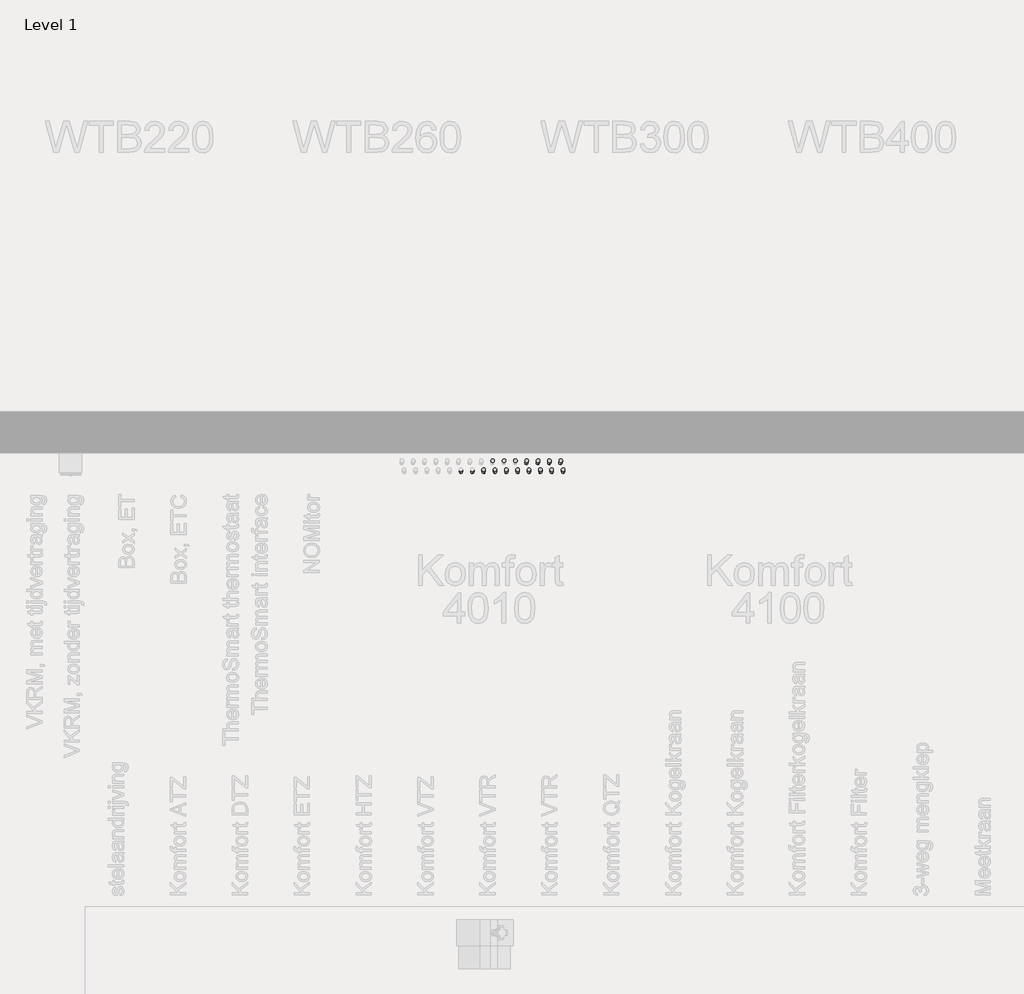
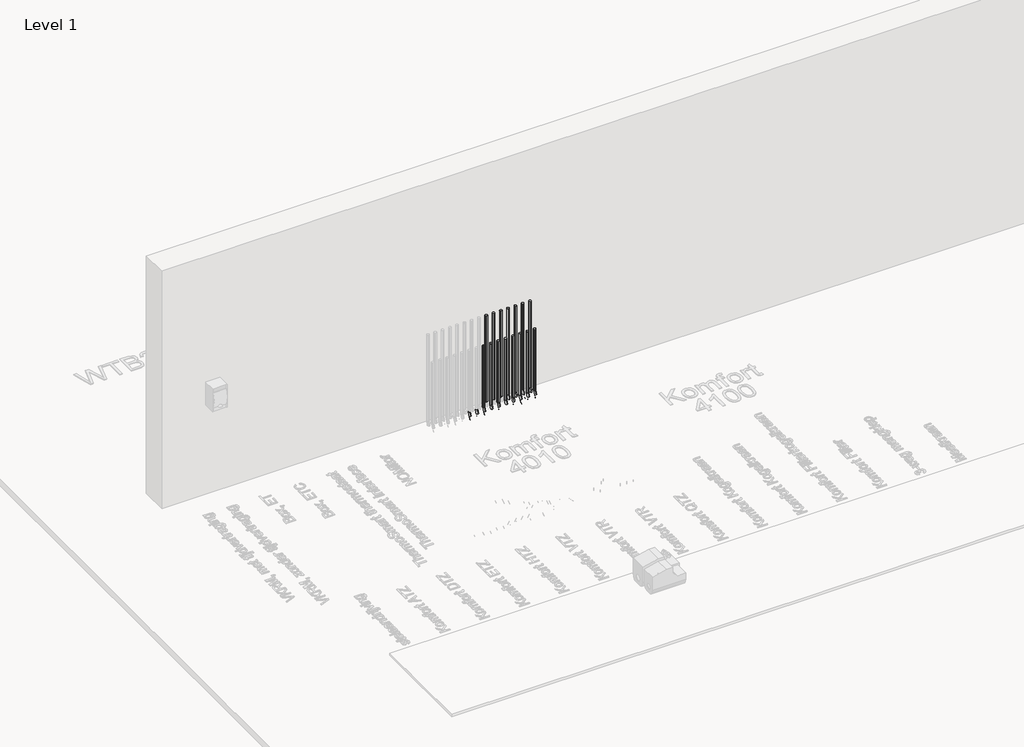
# One storey, part 5 of 34: 39 pipe segments, 18 pipe fittings.
"""IFC4 building model written with IfcOpenShell, lengths in millimetres."""

from ifc_helpers import new_model, si_unit, point, frame, frame_2d, origin, place, context, project, spatial, circle_curve, trimmed, segment, composite_curve, outline, extrude, transform, mapped, element, save
from components import comfort_pipe_plus_5c14e1aa, comfort_pipe_plus_d9ac523e

model = new_model("IFC4")

# Units and contexts
model_context = context("Model", 3, world=origin())
ifc_project = project(units=[si_unit("LENGTHUNIT", "METRE", prefix="MILLI")], contexts=[model_context])

# Site, building, storey
site = spatial("IfcSite", under=ifc_project)
building = spatial("IfcBuilding", under=site)
storey = spatial("IfcBuildingStorey", under=building, Name="Level 1", Elevation=0.0)

# Pipe fittings
placement = place(None, origin())
comfort_pipe_plus_shape = comfort_pipe_plus_5c14e1aa(model_context)
element("IfcPipeFitting", 1, ObjectType="400_5-_Uponor_curved_Elbow : Comfort pipe PLUS", at=placement, inside=storey, context=model_context, shape_type="MappedRepresentation", body=[
    mapped(comfort_pipe_plus_shape, transform((-14509.4849522, 7437.4403177, -40.0), x_axis=(-0.14136609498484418, -0.9899573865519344, 0.0), y_axis=(0.9899573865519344, -0.14136609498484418, 0.0), z_axis=(0.0, 0.0, 1.0))),
])
element("IfcPipeFitting", 2, ObjectType="400_5-_Uponor_curved_Elbow : Comfort pipe PLUS", at=placement, inside=storey, context=model_context, shape_type="MappedRepresentation", body=[
    mapped(comfort_pipe_plus_shape, transform((-14564.4849522, 7437.4403177, -40.0), x_axis=(-0.14136609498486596, -0.9899573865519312, 0.0), y_axis=(0.9899573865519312, -0.14136609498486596, 0.0), z_axis=(0.0, 0.0, 1.0))),
])
element("IfcPipeFitting", 3, ObjectType="400_5-_Uponor_curved_Elbow : Comfort pipe PLUS", at=placement, inside=storey, context=model_context, shape_type="MappedRepresentation", body=[
    mapped(comfort_pipe_plus_shape, transform((-14619.4849522, 7437.4403177, -40.0), x_axis=(-0.14136609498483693, -0.9899573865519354, 0.0), y_axis=(0.9899573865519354, -0.14136609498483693, 0.0), z_axis=(0.0, 0.0, 1.0))),
])
element("IfcPipeFitting", 4, ObjectType="400_5-_Uponor_curved_Elbow : Comfort pipe PLUS", at=placement, inside=storey, context=model_context, shape_type="MappedRepresentation", body=[
    mapped(comfort_pipe_plus_shape, transform((-14674.4849522, 7437.4403177, -40.0), x_axis=(-0.1413660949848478, -0.9899573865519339, 0.0), y_axis=(0.9899573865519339, -0.1413660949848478, 0.0), z_axis=(0.0, 0.0, 1.0))),
])
comfort_pipe_plus_2_shape = comfort_pipe_plus_d9ac523e(model_context)
element("IfcPipeFitting", 5, ObjectType="400_5-_Uponor_curved_Elbow : Comfort pipe PLUS", at=placement, inside=storey, context=model_context, shape_type="MappedRepresentation", body=[
    mapped(comfort_pipe_plus_2_shape, transform((-14976.9849522, 7509.9863889, -40.0), x_axis=(0.0, 0.0, -1.0), y_axis=(0.0, -1.0, 0.0), z_axis=(-1.0, 0.0, 0.0))),
])
element("IfcPipeFitting", 6, ObjectType="400_5-_Uponor_curved_Elbow : Comfort pipe PLUS", at=placement, inside=storey, context=model_context, shape_type="MappedRepresentation", body=[
    mapped(comfort_pipe_plus_2_shape, transform((-14921.9849522, 7509.9863889, -40.0), x_axis=(0.0, 0.0, -1.0), y_axis=(0.0, -1.0, 0.0), z_axis=(-1.0, 0.0, 0.0))),
])
element("IfcPipeFitting", 7, ObjectType="400_5-_Uponor_curved_Elbow : Comfort pipe PLUS", at=placement, inside=storey, context=model_context, shape_type="MappedRepresentation", body=[
    mapped(comfort_pipe_plus_2_shape, transform((-14866.9849522, 7509.9863889, -40.0), x_axis=(0.0, 0.0, -1.0), y_axis=(0.0, -1.0, 0.0), z_axis=(-1.0, 0.0, 0.0))),
])
element("IfcPipeFitting", 8, ObjectType="400_5-_Uponor_curved_Elbow : Comfort pipe PLUS", at=placement, inside=storey, context=model_context, shape_type="MappedRepresentation", body=[
    mapped(comfort_pipe_plus_2_shape, transform((-14811.9849522, 7509.9863889, -40.0), x_axis=(0.0, 0.0, -1.0), y_axis=(0.0, -1.0, 0.0), z_axis=(-1.0, 0.0, 0.0))),
])
element("IfcPipeFitting", 9, ObjectType="400_5-_Uponor_curved_Elbow : Comfort pipe PLUS", at=placement, inside=storey, context=model_context, shape_type="MappedRepresentation", body=[
    mapped(comfort_pipe_plus_2_shape, transform((-14756.9849522, 7509.9863889, -40.0), x_axis=(0.0, 0.0, -1.0), y_axis=(0.0, -1.0, 0.0), z_axis=(-1.0, 0.0, 0.0))),
])
element("IfcPipeFitting", 10, ObjectType="400_5-_Uponor_curved_Elbow : Comfort pipe PLUS", at=placement, inside=storey, context=model_context, shape_type="MappedRepresentation", body=[
    mapped(comfort_pipe_plus_2_shape, transform((-14701.9849522, 7509.9863889, -40.0), x_axis=(0.0, 0.0, -1.0), y_axis=(0.0, -1.0, 0.0), z_axis=(-1.0, 0.0, 0.0))),
])
element("IfcPipeFitting", 11, ObjectType="400_5-_Uponor_curved_Elbow : Comfort pipe PLUS", at=placement, inside=storey, context=model_context, shape_type="MappedRepresentation", body=[
    mapped(comfort_pipe_plus_2_shape, transform((-14646.9849522, 7509.9863889, -40.0), x_axis=(0.0, 0.0, -1.0), y_axis=(0.0, -1.0, 0.0), z_axis=(-1.0, 0.0, 0.0))),
])
element("IfcPipeFitting", 12, ObjectType="400_5-_Uponor_curved_Elbow : Comfort pipe PLUS", at=placement, inside=storey, context=model_context, shape_type="MappedRepresentation", body=[
    mapped(comfort_pipe_plus_2_shape, transform((-14591.9849522, 7509.9863889, -40.0), x_axis=(0.0, 0.0, -1.0), y_axis=(0.0, -1.0, 0.0), z_axis=(-1.0, 0.0, 0.0))),
])
element("IfcPipeFitting", 13, ObjectType="400_5-_Uponor_curved_Elbow : Comfort pipe PLUS", at=placement, inside=storey, context=model_context, shape_type="MappedRepresentation", body=[
    mapped(comfort_pipe_plus_2_shape, transform((-14536.9849522, 7509.9863889, -40.0), x_axis=(0.0, 0.0, -1.0), y_axis=(0.0, -1.0, 0.0), z_axis=(-1.0, 0.0, 0.0))),
])
element("IfcPipeFitting", 14, ObjectType="400_5-_Uponor_curved_Elbow : Comfort pipe PLUS", at=placement, inside=storey, context=model_context, shape_type="MappedRepresentation", body=[
    mapped(comfort_pipe_plus_2_shape, transform((-14481.9849522, 7509.9863889, -40.0), x_axis=(0.0, 0.0, -1.0), y_axis=(0.0, -1.0, 0.0), z_axis=(-1.0, 0.0, 0.0))),
])
element("IfcPipeFitting", 15, ObjectType="400_5-_Uponor_curved_Elbow : Comfort pipe PLUS", at=placement, inside=storey, context=model_context, shape_type="MappedRepresentation", body=[
    mapped(comfort_pipe_plus_2_shape, transform((-14492.9849522, 7552.9863889, -40.0), x_axis=(0.0, 0.0, -1.0), y_axis=(-0.14136609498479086, -0.989957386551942, 0.0), z_axis=(-0.989957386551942, 0.14136609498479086, 0.0))),
])
element("IfcPipeFitting", 16, ObjectType="400_5-_Uponor_curved_Elbow : Comfort pipe PLUS", at=placement, inside=storey, context=model_context, shape_type="MappedRepresentation", body=[
    mapped(comfort_pipe_plus_2_shape, transform((-14547.9849522, 7552.9863889, -40.0), x_axis=(0.0, 0.0, -1.0), y_axis=(-0.14136609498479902, -0.9899573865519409, 0.0), z_axis=(-0.9899573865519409, 0.14136609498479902, 0.0))),
])
element("IfcPipeFitting", 17, ObjectType="400_5-_Uponor_curved_Elbow : Comfort pipe PLUS", at=placement, inside=storey, context=model_context, shape_type="MappedRepresentation", body=[
    mapped(comfort_pipe_plus_2_shape, transform((-14602.9849522, 7552.9863889, -40.0), x_axis=(0.0, 0.0, -1.0), y_axis=(-0.14136609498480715, -0.9899573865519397, 0.0), z_axis=(-0.9899573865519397, 0.14136609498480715, 0.0))),
])
element("IfcPipeFitting", 18, ObjectType="400_5-_Uponor_curved_Elbow : Comfort pipe PLUS", at=placement, inside=storey, context=model_context, shape_type="MappedRepresentation", body=[
    mapped(comfort_pipe_plus_2_shape, transform((-14657.9849522, 7552.9863889, -40.0), x_axis=(0.0, 0.0, -1.0), y_axis=(-0.14136609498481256, -0.9899573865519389, 0.0), z_axis=(-0.9899573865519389, 0.14136609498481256, 0.0))),
])

# Pipe segments
element("IfcPipeSegment", 19, ObjectType="Uponor Comfort Pipe PLUS / VVL", at=placement, inside=storey, context=model_context, shape_type="SweptSolid", body=[
    extrude(outline(composite_curve([segment(trimmed(circle_curve(frame_2d((-40.0, -14866.9849522)), 8.5), [point((-40.0, -14875.4849522))], [point((-48.5, -14866.9849522))], False, "CARTESIAN"), True, "CONTINUOUS"), segment(trimmed(circle_curve(frame_2d((-40.0, -14866.9849522)), 8.5), [point((-48.5, -14866.9849522))], [point((-40.0, -14858.4849522))], False, "CARTESIAN"), True, "CONTINUOUS"), segment(trimmed(circle_curve(frame_2d((-40.0, -14866.9849522)), 8.5), [point((-40.0, -14858.4849522))], [point((-31.5, -14866.9849522))], False, "CARTESIAN"), True, "CONTINUOUS"), segment(trimmed(circle_curve(frame_2d((-40.0, -14866.9849522)), 8.5), [point((-31.5, -14866.9849522))], [point((-40.0, -14875.4849522))], False, "CARTESIAN"), True, "CONTINUOUS")], self_intersect=False)), frame((0.0, 7193.8942465, 0.0), z_axis=(0.0, 1.0, 0.0), x_axis=(0.0, 0.0, 1.0)), (0.0, 0.0, 1.0), 246.0921424),
])
element("IfcPipeSegment", 20, ObjectType="Uponor Comfort Pipe PLUS / VVL", at=placement, inside=storey, context=model_context, shape_type="SweptSolid", body=[
    extrude(outline(composite_curve([segment(trimmed(circle_curve(frame_2d((-14866.9849522, 7509.9863889)), 8.5), [point((-14875.4849522, 7509.9863889))], [point((-14866.9849522, 7518.4863889))], False, "CARTESIAN"), True, "CONTINUOUS"), segment(trimmed(circle_curve(frame_2d((-14866.9849522, 7509.9863889)), 8.5), [point((-14866.9849522, 7518.4863889))], [point((-14858.4849522, 7509.9863889))], False, "CARTESIAN"), True, "CONTINUOUS"), segment(trimmed(circle_curve(frame_2d((-14866.9849522, 7509.9863889)), 8.5), [point((-14858.4849522, 7509.9863889))], [point((-14866.9849522, 7501.4863889))], False, "CARTESIAN"), True, "CONTINUOUS"), segment(trimmed(circle_curve(frame_2d((-14866.9849522, 7509.9863889)), 8.5), [point((-14866.9849522, 7501.4863889))], [point((-14875.4849522, 7509.9863889))], False, "CARTESIAN"), True, "CONTINUOUS")], self_intersect=False)), frame((0.0, 0.0, 30.0), z_axis=(0.0, 0.0, 1.0), x_axis=(1.0, 0.0, 0.0)), (0.0, 0.0, 1.0), 487.6490683),
])
element("IfcPipeSegment", 21, ObjectType="Uponor Comfort Pipe PLUS / VVL", at=placement, inside=storey, context=model_context, shape_type="SweptSolid", body=[
    extrude(outline(composite_curve([segment(trimmed(circle_curve(frame_2d((0.0, -8.5)), 8.5), [point((-8.5, -8.5))], [point((0.0, 0.0))], False, "CARTESIAN"), True, "CONTINUOUS"), segment(trimmed(circle_curve(frame_2d((0.0, -8.5)), 8.5), [point((0.0, 0.0))], [point((8.5, -8.5))], False, "CARTESIAN"), True, "CONTINUOUS"), segment(trimmed(circle_curve(frame_2d((0.0, -8.5)), 8.5), [point((8.5, -8.5))], [point((0.0, -17.0))], False, "CARTESIAN"), True, "CONTINUOUS"), segment(trimmed(circle_curve(frame_2d((0.0, -8.5)), 8.5), [point((0.0, -17.0))], [point((-8.5, -8.5))], False, "CARTESIAN"), True, "CONTINUOUS")], self_intersect=False)), frame((-14838.7819693, 7442.3631611, -48.5), z_axis=(0.14136609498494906, 0.9899573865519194, 0.0), x_axis=(0.9899573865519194, -0.14136609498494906, 0.0)), (0.0, 0.0, 1.0), 41.7454441),
])
element("IfcPipeSegment", 22, ObjectType="Uponor Comfort Pipe PLUS / VVL", at=placement, inside=storey, context=model_context, shape_type="SweptSolid", body=[
    extrude(outline(composite_curve([segment(trimmed(circle_curve(frame_2d((-14822.9849522, 7552.9863889)), 8.5), [point((-14831.4849522, 7552.9863889))], [point((-14822.9849522, 7561.4863889))], False, "CARTESIAN"), True, "CONTINUOUS"), segment(trimmed(circle_curve(frame_2d((-14822.9849522, 7552.9863889)), 8.5), [point((-14822.9849522, 7561.4863889))], [point((-14814.4849522, 7552.9863889))], False, "CARTESIAN"), True, "CONTINUOUS"), segment(trimmed(circle_curve(frame_2d((-14822.9849522, 7552.9863889)), 8.5), [point((-14814.4849522, 7552.9863889))], [point((-14822.9849522, 7544.4863889))], False, "CARTESIAN"), True, "CONTINUOUS"), segment(trimmed(circle_curve(frame_2d((-14822.9849522, 7552.9863889)), 8.5), [point((-14822.9849522, 7544.4863889))], [point((-14831.4849522, 7552.9863889))], False, "CARTESIAN"), True, "CONTINUOUS")], self_intersect=False)), frame((0.0, 0.0, 30.0), z_axis=(0.0, 0.0, 1.0), x_axis=(1.0, 0.0, 0.0)), (0.0, 0.0, 1.0), 687.5776398),
])
element("IfcPipeSegment", 23, ObjectType="Uponor Comfort Pipe PLUS / VVL", at=placement, inside=storey, context=model_context, shape_type="SweptSolid", body=[
    extrude(outline(composite_curve([segment(trimmed(circle_curve(frame_2d((-40.0, -14811.9849522)), 8.5), [point((-40.0, -14820.4849522))], [point((-48.5, -14811.9849522))], False, "CARTESIAN"), True, "CONTINUOUS"), segment(trimmed(circle_curve(frame_2d((-40.0, -14811.9849522)), 8.5), [point((-48.5, -14811.9849522))], [point((-40.0, -14803.4849522))], False, "CARTESIAN"), True, "CONTINUOUS"), segment(trimmed(circle_curve(frame_2d((-40.0, -14811.9849522)), 8.5), [point((-40.0, -14803.4849522))], [point((-31.5, -14811.9849522))], False, "CARTESIAN"), True, "CONTINUOUS"), segment(trimmed(circle_curve(frame_2d((-40.0, -14811.9849522)), 8.5), [point((-31.5, -14811.9849522))], [point((-40.0, -14820.4849522))], False, "CARTESIAN"), True, "CONTINUOUS")], self_intersect=False)), frame((0.0, 7193.8942465, 0.0), z_axis=(0.0, 1.0, 0.0), x_axis=(0.0, 0.0, 1.0)), (0.0, 0.0, 1.0), 246.0921424),
])
element("IfcPipeSegment", 24, ObjectType="Uponor Comfort Pipe PLUS / VVL", at=placement, inside=storey, context=model_context, shape_type="SweptSolid", body=[
    extrude(outline(composite_curve([segment(trimmed(circle_curve(frame_2d((-14811.9849522, 7509.9863889)), 8.5), [point((-14820.4849522, 7509.9863889))], [point((-14811.9849522, 7518.4863889))], False, "CARTESIAN"), True, "CONTINUOUS"), segment(trimmed(circle_curve(frame_2d((-14811.9849522, 7509.9863889)), 8.5), [point((-14811.9849522, 7518.4863889))], [point((-14803.4849522, 7509.9863889))], False, "CARTESIAN"), True, "CONTINUOUS"), segment(trimmed(circle_curve(frame_2d((-14811.9849522, 7509.9863889)), 8.5), [point((-14803.4849522, 7509.9863889))], [point((-14811.9849522, 7501.4863889))], False, "CARTESIAN"), True, "CONTINUOUS"), segment(trimmed(circle_curve(frame_2d((-14811.9849522, 7509.9863889)), 8.5), [point((-14811.9849522, 7501.4863889))], [point((-14820.4849522, 7509.9863889))], False, "CARTESIAN"), True, "CONTINUOUS")], self_intersect=False)), frame((0.0, 0.0, 30.0), z_axis=(0.0, 0.0, 1.0), x_axis=(1.0, 0.0, 0.0)), (0.0, 0.0, 1.0), 487.6490683),
])
element("IfcPipeSegment", 25, ObjectType="Uponor Comfort Pipe PLUS / VVL", at=placement, inside=storey, context=model_context, shape_type="SweptSolid", body=[
    extrude(outline(composite_curve([segment(trimmed(circle_curve(frame_2d((0.0, -8.5)), 8.5), [point((-8.5, -8.5))], [point((0.0, 0.0))], False, "CARTESIAN"), True, "CONTINUOUS"), segment(trimmed(circle_curve(frame_2d((0.0, -8.5)), 8.5), [point((0.0, 0.0))], [point((8.5, -8.5))], False, "CARTESIAN"), True, "CONTINUOUS"), segment(trimmed(circle_curve(frame_2d((0.0, -8.5)), 8.5), [point((8.5, -8.5))], [point((0.0, -17.0))], False, "CARTESIAN"), True, "CONTINUOUS"), segment(trimmed(circle_curve(frame_2d((0.0, -8.5)), 8.5), [point((0.0, -17.0))], [point((-8.5, -8.5))], False, "CARTESIAN"), True, "CONTINUOUS")], self_intersect=False)), frame((-14783.7819693, 7442.3631611, -48.5), z_axis=(0.14136609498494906, 0.9899573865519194, 0.0), x_axis=(0.9899573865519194, -0.14136609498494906, 0.0)), (0.0, 0.0, 1.0), 41.7454441),
])
element("IfcPipeSegment", 26, ObjectType="Uponor Comfort Pipe PLUS / VVL", at=placement, inside=storey, context=model_context, shape_type="SweptSolid", body=[
    extrude(outline(composite_curve([segment(trimmed(circle_curve(frame_2d((-14767.9849522, 7552.9863889)), 8.5), [point((-14776.4849522, 7552.9863889))], [point((-14767.9849522, 7561.4863889))], False, "CARTESIAN"), True, "CONTINUOUS"), segment(trimmed(circle_curve(frame_2d((-14767.9849522, 7552.9863889)), 8.5), [point((-14767.9849522, 7561.4863889))], [point((-14759.4849522, 7552.9863889))], False, "CARTESIAN"), True, "CONTINUOUS"), segment(trimmed(circle_curve(frame_2d((-14767.9849522, 7552.9863889)), 8.5), [point((-14759.4849522, 7552.9863889))], [point((-14767.9849522, 7544.4863889))], False, "CARTESIAN"), True, "CONTINUOUS"), segment(trimmed(circle_curve(frame_2d((-14767.9849522, 7552.9863889)), 8.5), [point((-14767.9849522, 7544.4863889))], [point((-14776.4849522, 7552.9863889))], False, "CARTESIAN"), True, "CONTINUOUS")], self_intersect=False)), frame((0.0, 0.0, 30.0), z_axis=(0.0, 0.0, 1.0), x_axis=(1.0, 0.0, 0.0)), (0.0, 0.0, 1.0), 687.5776398),
])
element("IfcPipeSegment", 27, ObjectType="Uponor Comfort Pipe PLUS / VVL", at=placement, inside=storey, context=model_context, shape_type="SweptSolid", body=[
    extrude(outline(composite_curve([segment(trimmed(circle_curve(frame_2d((-40.0, -14756.9849522)), 8.5), [point((-40.0, -14765.4849522))], [point((-48.5, -14756.9849522))], False, "CARTESIAN"), True, "CONTINUOUS"), segment(trimmed(circle_curve(frame_2d((-40.0, -14756.9849522)), 8.5), [point((-48.5, -14756.9849522))], [point((-40.0, -14748.4849522))], False, "CARTESIAN"), True, "CONTINUOUS"), segment(trimmed(circle_curve(frame_2d((-40.0, -14756.9849522)), 8.5), [point((-40.0, -14748.4849522))], [point((-31.5, -14756.9849522))], False, "CARTESIAN"), True, "CONTINUOUS"), segment(trimmed(circle_curve(frame_2d((-40.0, -14756.9849522)), 8.5), [point((-31.5, -14756.9849522))], [point((-40.0, -14765.4849522))], False, "CARTESIAN"), True, "CONTINUOUS")], self_intersect=False)), frame((0.0, 7193.8942465, 0.0), z_axis=(0.0, 1.0, 0.0), x_axis=(0.0, 0.0, 1.0)), (0.0, 0.0, 1.0), 246.0921424),
])
element("IfcPipeSegment", 28, ObjectType="Uponor Comfort Pipe PLUS / VVL", at=placement, inside=storey, context=model_context, shape_type="SweptSolid", body=[
    extrude(outline(composite_curve([segment(trimmed(circle_curve(frame_2d((-14756.9849522, 7509.9863889)), 8.5), [point((-14765.4849522, 7509.9863889))], [point((-14756.9849522, 7518.4863889))], False, "CARTESIAN"), True, "CONTINUOUS"), segment(trimmed(circle_curve(frame_2d((-14756.9849522, 7509.9863889)), 8.5), [point((-14756.9849522, 7518.4863889))], [point((-14748.4849522, 7509.9863889))], False, "CARTESIAN"), True, "CONTINUOUS"), segment(trimmed(circle_curve(frame_2d((-14756.9849522, 7509.9863889)), 8.5), [point((-14748.4849522, 7509.9863889))], [point((-14756.9849522, 7501.4863889))], False, "CARTESIAN"), True, "CONTINUOUS"), segment(trimmed(circle_curve(frame_2d((-14756.9849522, 7509.9863889)), 8.5), [point((-14756.9849522, 7501.4863889))], [point((-14765.4849522, 7509.9863889))], False, "CARTESIAN"), True, "CONTINUOUS")], self_intersect=False)), frame((0.0, 0.0, 30.0), z_axis=(0.0, 0.0, 1.0), x_axis=(1.0, 0.0, 0.0)), (0.0, 0.0, 1.0), 487.6490683),
])
element("IfcPipeSegment", 29, ObjectType="Uponor Comfort Pipe PLUS / VVL", at=placement, inside=storey, context=model_context, shape_type="SweptSolid", body=[
    extrude(outline(composite_curve([segment(trimmed(circle_curve(frame_2d((0.0, -8.5)), 8.5), [point((-8.5, -8.5))], [point((0.0, 0.0))], False, "CARTESIAN"), True, "CONTINUOUS"), segment(trimmed(circle_curve(frame_2d((0.0, -8.5)), 8.5), [point((0.0, 0.0))], [point((8.5, -8.5))], False, "CARTESIAN"), True, "CONTINUOUS"), segment(trimmed(circle_curve(frame_2d((0.0, -8.5)), 8.5), [point((8.5, -8.5))], [point((0.0, -17.0))], False, "CARTESIAN"), True, "CONTINUOUS"), segment(trimmed(circle_curve(frame_2d((0.0, -8.5)), 8.5), [point((0.0, -17.0))], [point((-8.5, -8.5))], False, "CARTESIAN"), True, "CONTINUOUS")], self_intersect=False)), frame((-14728.7819693, 7442.3631611, -48.5), z_axis=(0.14136609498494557, 0.98995738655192, 0.0), x_axis=(0.98995738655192, -0.14136609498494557, 0.0)), (0.0, 0.0, 1.0), 41.7454441),
])
element("IfcPipeSegment", 30, ObjectType="Uponor Comfort Pipe PLUS / VVL", at=placement, inside=storey, context=model_context, shape_type="SweptSolid", body=[
    extrude(outline(composite_curve([segment(trimmed(circle_curve(frame_2d((-14712.9849522, 7552.9863889)), 8.5), [point((-14721.4849522, 7552.9863889))], [point((-14712.9849522, 7561.4863889))], False, "CARTESIAN"), True, "CONTINUOUS"), segment(trimmed(circle_curve(frame_2d((-14712.9849522, 7552.9863889)), 8.5), [point((-14712.9849522, 7561.4863889))], [point((-14704.4849522, 7552.9863889))], False, "CARTESIAN"), True, "CONTINUOUS"), segment(trimmed(circle_curve(frame_2d((-14712.9849522, 7552.9863889)), 8.5), [point((-14704.4849522, 7552.9863889))], [point((-14712.9849522, 7544.4863889))], False, "CARTESIAN"), True, "CONTINUOUS"), segment(trimmed(circle_curve(frame_2d((-14712.9849522, 7552.9863889)), 8.5), [point((-14712.9849522, 7544.4863889))], [point((-14721.4849522, 7552.9863889))], False, "CARTESIAN"), True, "CONTINUOUS")], self_intersect=False)), frame((0.0, 0.0, 30.0), z_axis=(0.0, 0.0, 1.0), x_axis=(1.0, 0.0, 0.0)), (0.0, 0.0, 1.0), 687.5776398),
])
element("IfcPipeSegment", 31, ObjectType="Uponor Comfort Pipe PLUS / VVL", at=placement, inside=storey, context=model_context, shape_type="SweptSolid", body=[
    extrude(outline(composite_curve([segment(trimmed(circle_curve(frame_2d((-40.0, -14701.9849522)), 8.5), [point((-40.0, -14710.4849522))], [point((-48.5, -14701.9849522))], False, "CARTESIAN"), True, "CONTINUOUS"), segment(trimmed(circle_curve(frame_2d((-40.0, -14701.9849522)), 8.5), [point((-48.5, -14701.9849522))], [point((-40.0, -14693.4849522))], False, "CARTESIAN"), True, "CONTINUOUS"), segment(trimmed(circle_curve(frame_2d((-40.0, -14701.9849522)), 8.5), [point((-40.0, -14693.4849522))], [point((-31.5, -14701.9849522))], False, "CARTESIAN"), True, "CONTINUOUS"), segment(trimmed(circle_curve(frame_2d((-40.0, -14701.9849522)), 8.5), [point((-31.5, -14701.9849522))], [point((-40.0, -14710.4849522))], False, "CARTESIAN"), True, "CONTINUOUS")], self_intersect=False)), frame((0.0, 7193.8942465, 0.0), z_axis=(0.0, 1.0, 0.0), x_axis=(0.0, 0.0, 1.0)), (0.0, 0.0, 1.0), 246.0921424),
])
element("IfcPipeSegment", 32, ObjectType="Uponor Comfort Pipe PLUS / VVL", at=placement, inside=storey, context=model_context, shape_type="SweptSolid", body=[
    extrude(outline(composite_curve([segment(trimmed(circle_curve(frame_2d((-14701.9849522, 7509.9863889)), 8.5), [point((-14710.4849522, 7509.9863889))], [point((-14701.9849522, 7518.4863889))], False, "CARTESIAN"), True, "CONTINUOUS"), segment(trimmed(circle_curve(frame_2d((-14701.9849522, 7509.9863889)), 8.5), [point((-14701.9849522, 7518.4863889))], [point((-14693.4849522, 7509.9863889))], False, "CARTESIAN"), True, "CONTINUOUS"), segment(trimmed(circle_curve(frame_2d((-14701.9849522, 7509.9863889)), 8.5), [point((-14693.4849522, 7509.9863889))], [point((-14701.9849522, 7501.4863889))], False, "CARTESIAN"), True, "CONTINUOUS"), segment(trimmed(circle_curve(frame_2d((-14701.9849522, 7509.9863889)), 8.5), [point((-14701.9849522, 7501.4863889))], [point((-14710.4849522, 7509.9863889))], False, "CARTESIAN"), True, "CONTINUOUS")], self_intersect=False)), frame((0.0, 0.0, 30.0), z_axis=(0.0, 0.0, 1.0), x_axis=(1.0, 0.0, 0.0)), (0.0, 0.0, 1.0), 487.6490683),
])
element("IfcPipeSegment", 33, ObjectType="Uponor Comfort Pipe PLUS / VVL", at=placement, inside=storey, context=model_context, shape_type="SweptSolid", body=[
    extrude(outline(composite_curve([segment(trimmed(circle_curve(frame_2d((0.0, -8.5)), 8.5), [point((-8.5, -8.5))], [point((0.0, 0.0))], False, "CARTESIAN"), True, "CONTINUOUS"), segment(trimmed(circle_curve(frame_2d((0.0, -8.5)), 8.5), [point((0.0, 0.0))], [point((8.5, -8.5))], False, "CARTESIAN"), True, "CONTINUOUS"), segment(trimmed(circle_curve(frame_2d((0.0, -8.5)), 8.5), [point((8.5, -8.5))], [point((0.0, -17.0))], False, "CARTESIAN"), True, "CONTINUOUS"), segment(trimmed(circle_curve(frame_2d((0.0, -8.5)), 8.5), [point((0.0, -17.0))], [point((-8.5, -8.5))], False, "CARTESIAN"), True, "CONTINUOUS")], self_intersect=False)), frame((-14673.7819693, 7442.3631611, -48.5), z_axis=(0.1413660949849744, 0.9899573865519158, 0.0), x_axis=(0.9899573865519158, -0.1413660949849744, 0.0)), (0.0, 0.0, 1.0), 41.7454441),
])
element("IfcPipeSegment", 34, ObjectType="Uponor Comfort Pipe PLUS / VVL", at=placement, inside=storey, context=model_context, shape_type="SweptSolid", body=[
    extrude(outline(composite_curve([segment(trimmed(circle_curve(frame_2d((-14657.9849522, 7552.9863889)), 8.5), [point((-14666.4849522, 7552.9863889))], [point((-14657.9849522, 7561.4863889))], False, "CARTESIAN"), True, "CONTINUOUS"), segment(trimmed(circle_curve(frame_2d((-14657.9849522, 7552.9863889)), 8.5), [point((-14657.9849522, 7561.4863889))], [point((-14649.4849522, 7552.9863889))], False, "CARTESIAN"), True, "CONTINUOUS"), segment(trimmed(circle_curve(frame_2d((-14657.9849522, 7552.9863889)), 8.5), [point((-14649.4849522, 7552.9863889))], [point((-14657.9849522, 7544.4863889))], False, "CARTESIAN"), True, "CONTINUOUS"), segment(trimmed(circle_curve(frame_2d((-14657.9849522, 7552.9863889)), 8.5), [point((-14657.9849522, 7544.4863889))], [point((-14666.4849522, 7552.9863889))], False, "CARTESIAN"), True, "CONTINUOUS")], self_intersect=False)), frame((0.0, 0.0, 30.0), z_axis=(0.0, 0.0, 1.0), x_axis=(1.0, 0.0, 0.0)), (0.0, 0.0, 1.0), 687.5776398),
])
element("IfcPipeSegment", 35, ObjectType="Uponor Comfort Pipe PLUS / VVL", at=placement, inside=storey, context=model_context, shape_type="SweptSolid", body=[
    extrude(outline(composite_curve([segment(trimmed(circle_curve(frame_2d((-40.0, -14646.9849522)), 8.5), [point((-40.0, -14655.4849522))], [point((-48.5, -14646.9849522))], False, "CARTESIAN"), True, "CONTINUOUS"), segment(trimmed(circle_curve(frame_2d((-40.0, -14646.9849522)), 8.5), [point((-48.5, -14646.9849522))], [point((-40.0, -14638.4849522))], False, "CARTESIAN"), True, "CONTINUOUS"), segment(trimmed(circle_curve(frame_2d((-40.0, -14646.9849522)), 8.5), [point((-40.0, -14638.4849522))], [point((-31.5, -14646.9849522))], False, "CARTESIAN"), True, "CONTINUOUS"), segment(trimmed(circle_curve(frame_2d((-40.0, -14646.9849522)), 8.5), [point((-31.5, -14646.9849522))], [point((-40.0, -14655.4849522))], False, "CARTESIAN"), True, "CONTINUOUS")], self_intersect=False)), frame((0.0, 7193.8942465, 0.0), z_axis=(0.0, 1.0, 0.0), x_axis=(0.0, 0.0, 1.0)), (0.0, 0.0, 1.0), 246.0921424),
])
element("IfcPipeSegment", 36, ObjectType="Uponor Comfort Pipe PLUS / VVL", at=placement, inside=storey, context=model_context, shape_type="SweptSolid", body=[
    extrude(outline(composite_curve([segment(trimmed(circle_curve(frame_2d((-14646.9849522, 7509.9863889)), 8.5), [point((-14655.4849522, 7509.9863889))], [point((-14646.9849522, 7518.4863889))], False, "CARTESIAN"), True, "CONTINUOUS"), segment(trimmed(circle_curve(frame_2d((-14646.9849522, 7509.9863889)), 8.5), [point((-14646.9849522, 7518.4863889))], [point((-14638.4849522, 7509.9863889))], False, "CARTESIAN"), True, "CONTINUOUS"), segment(trimmed(circle_curve(frame_2d((-14646.9849522, 7509.9863889)), 8.5), [point((-14638.4849522, 7509.9863889))], [point((-14646.9849522, 7501.4863889))], False, "CARTESIAN"), True, "CONTINUOUS"), segment(trimmed(circle_curve(frame_2d((-14646.9849522, 7509.9863889)), 8.5), [point((-14646.9849522, 7501.4863889))], [point((-14655.4849522, 7509.9863889))], False, "CARTESIAN"), True, "CONTINUOUS")], self_intersect=False)), frame((0.0, 0.0, 30.0), z_axis=(0.0, 0.0, 1.0), x_axis=(1.0, 0.0, 0.0)), (0.0, 0.0, 1.0), 487.6490683),
])
element("IfcPipeSegment", 37, ObjectType="Uponor Comfort Pipe PLUS / VVL", at=placement, inside=storey, context=model_context, shape_type="SweptSolid", body=[
    extrude(outline(composite_curve([segment(trimmed(circle_curve(frame_2d((0.0, -8.5)), 8.5), [point((-8.5, -8.5))], [point((0.0, 0.0))], False, "CARTESIAN"), True, "CONTINUOUS"), segment(trimmed(circle_curve(frame_2d((0.0, -8.5)), 8.5), [point((0.0, 0.0))], [point((8.5, -8.5))], False, "CARTESIAN"), True, "CONTINUOUS"), segment(trimmed(circle_curve(frame_2d((0.0, -8.5)), 8.5), [point((8.5, -8.5))], [point((0.0, -17.0))], False, "CARTESIAN"), True, "CONTINUOUS"), segment(trimmed(circle_curve(frame_2d((0.0, -8.5)), 8.5), [point((0.0, -17.0))], [point((-8.5, -8.5))], False, "CARTESIAN"), True, "CONTINUOUS")], self_intersect=False)), frame((-14618.7819693, 7442.3631611, -48.5), z_axis=(0.14136609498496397, 0.9899573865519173, 0.0), x_axis=(0.9899573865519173, -0.14136609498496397, 0.0)), (0.0, 0.0, 1.0), 41.7454441),
])
element("IfcPipeSegment", 38, ObjectType="Uponor Comfort Pipe PLUS / VVL", at=placement, inside=storey, context=model_context, shape_type="SweptSolid", body=[
    extrude(outline(composite_curve([segment(trimmed(circle_curve(frame_2d((-14602.9849522, 7552.9863889)), 8.5), [point((-14611.4849522, 7552.9863889))], [point((-14602.9849522, 7561.4863889))], False, "CARTESIAN"), True, "CONTINUOUS"), segment(trimmed(circle_curve(frame_2d((-14602.9849522, 7552.9863889)), 8.5), [point((-14602.9849522, 7561.4863889))], [point((-14594.4849522, 7552.9863889))], False, "CARTESIAN"), True, "CONTINUOUS"), segment(trimmed(circle_curve(frame_2d((-14602.9849522, 7552.9863889)), 8.5), [point((-14594.4849522, 7552.9863889))], [point((-14602.9849522, 7544.4863889))], False, "CARTESIAN"), True, "CONTINUOUS"), segment(trimmed(circle_curve(frame_2d((-14602.9849522, 7552.9863889)), 8.5), [point((-14602.9849522, 7544.4863889))], [point((-14611.4849522, 7552.9863889))], False, "CARTESIAN"), True, "CONTINUOUS")], self_intersect=False)), frame((0.0, 0.0, 30.0), z_axis=(0.0, 0.0, 1.0), x_axis=(1.0, 0.0, 0.0)), (0.0, 0.0, 1.0), 687.5776398),
])
element("IfcPipeSegment", 39, ObjectType="Uponor Comfort Pipe PLUS / VVL", at=placement, inside=storey, context=model_context, shape_type="SweptSolid", body=[
    extrude(outline(composite_curve([segment(trimmed(circle_curve(frame_2d((-40.0, -14591.9849522)), 8.5), [point((-40.0, -14600.4849522))], [point((-48.5, -14591.9849522))], False, "CARTESIAN"), True, "CONTINUOUS"), segment(trimmed(circle_curve(frame_2d((-40.0, -14591.9849522)), 8.5), [point((-48.5, -14591.9849522))], [point((-40.0, -14583.4849522))], False, "CARTESIAN"), True, "CONTINUOUS"), segment(trimmed(circle_curve(frame_2d((-40.0, -14591.9849522)), 8.5), [point((-40.0, -14583.4849522))], [point((-31.5, -14591.9849522))], False, "CARTESIAN"), True, "CONTINUOUS"), segment(trimmed(circle_curve(frame_2d((-40.0, -14591.9849522)), 8.5), [point((-31.5, -14591.9849522))], [point((-40.0, -14600.4849522))], False, "CARTESIAN"), True, "CONTINUOUS")], self_intersect=False)), frame((0.0, 7193.8942465, 0.0), z_axis=(0.0, 1.0, 0.0), x_axis=(0.0, 0.0, 1.0)), (0.0, 0.0, 1.0), 246.0921424),
])
element("IfcPipeSegment", 40, ObjectType="Uponor Comfort Pipe PLUS / VVL", at=placement, inside=storey, context=model_context, shape_type="SweptSolid", body=[
    extrude(outline(composite_curve([segment(trimmed(circle_curve(frame_2d((-14591.9849522, 7509.9863889)), 8.5), [point((-14600.4849522, 7509.9863889))], [point((-14591.9849522, 7518.4863889))], False, "CARTESIAN"), True, "CONTINUOUS"), segment(trimmed(circle_curve(frame_2d((-14591.9849522, 7509.9863889)), 8.5), [point((-14591.9849522, 7518.4863889))], [point((-14583.4849522, 7509.9863889))], False, "CARTESIAN"), True, "CONTINUOUS"), segment(trimmed(circle_curve(frame_2d((-14591.9849522, 7509.9863889)), 8.5), [point((-14583.4849522, 7509.9863889))], [point((-14591.9849522, 7501.4863889))], False, "CARTESIAN"), True, "CONTINUOUS"), segment(trimmed(circle_curve(frame_2d((-14591.9849522, 7509.9863889)), 8.5), [point((-14591.9849522, 7501.4863889))], [point((-14600.4849522, 7509.9863889))], False, "CARTESIAN"), True, "CONTINUOUS")], self_intersect=False)), frame((0.0, 0.0, 30.0), z_axis=(0.0, 0.0, 1.0), x_axis=(1.0, 0.0, 0.0)), (0.0, 0.0, 1.0), 487.6490683),
])
element("IfcPipeSegment", 41, ObjectType="Uponor Comfort Pipe PLUS / VVL", at=placement, inside=storey, context=model_context, shape_type="SweptSolid", body=[
    extrude(outline(composite_curve([segment(trimmed(circle_curve(frame_2d((0.0, -8.5)), 8.5), [point((-8.5, -8.5))], [point((0.0, 0.0))], False, "CARTESIAN"), True, "CONTINUOUS"), segment(trimmed(circle_curve(frame_2d((0.0, -8.5)), 8.5), [point((0.0, 0.0))], [point((8.5, -8.5))], False, "CARTESIAN"), True, "CONTINUOUS"), segment(trimmed(circle_curve(frame_2d((0.0, -8.5)), 8.5), [point((8.5, -8.5))], [point((0.0, -17.0))], False, "CARTESIAN"), True, "CONTINUOUS"), segment(trimmed(circle_curve(frame_2d((0.0, -8.5)), 8.5), [point((0.0, -17.0))], [point((-8.5, -8.5))], False, "CARTESIAN"), True, "CONTINUOUS")], self_intersect=False)), frame((-14563.7819693, 7442.3631611, -48.5), z_axis=(0.14136609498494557, 0.98995738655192, 0.0), x_axis=(0.98995738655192, -0.14136609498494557, 0.0)), (0.0, 0.0, 1.0), 41.7454441),
])
element("IfcPipeSegment", 42, ObjectType="Uponor Comfort Pipe PLUS / VVL", at=placement, inside=storey, context=model_context, shape_type="SweptSolid", body=[
    extrude(outline(composite_curve([segment(trimmed(circle_curve(frame_2d((-14547.9849522, 7552.9863889)), 8.5), [point((-14556.4849522, 7552.9863889))], [point((-14547.9849522, 7561.4863889))], False, "CARTESIAN"), True, "CONTINUOUS"), segment(trimmed(circle_curve(frame_2d((-14547.9849522, 7552.9863889)), 8.5), [point((-14547.9849522, 7561.4863889))], [point((-14539.4849522, 7552.9863889))], False, "CARTESIAN"), True, "CONTINUOUS"), segment(trimmed(circle_curve(frame_2d((-14547.9849522, 7552.9863889)), 8.5), [point((-14539.4849522, 7552.9863889))], [point((-14547.9849522, 7544.4863889))], False, "CARTESIAN"), True, "CONTINUOUS"), segment(trimmed(circle_curve(frame_2d((-14547.9849522, 7552.9863889)), 8.5), [point((-14547.9849522, 7544.4863889))], [point((-14556.4849522, 7552.9863889))], False, "CARTESIAN"), True, "CONTINUOUS")], self_intersect=False)), frame((0.0, 0.0, 30.0), z_axis=(0.0, 0.0, 1.0), x_axis=(1.0, 0.0, 0.0)), (0.0, 0.0, 1.0), 687.5776398),
])
element("IfcPipeSegment", 43, ObjectType="Uponor Comfort Pipe PLUS / VVL", at=placement, inside=storey, context=model_context, shape_type="SweptSolid", body=[
    extrude(outline(composite_curve([segment(trimmed(circle_curve(frame_2d((-40.0, -14536.9849522)), 8.5), [point((-40.0, -14545.4849522))], [point((-48.5, -14536.9849522))], False, "CARTESIAN"), True, "CONTINUOUS"), segment(trimmed(circle_curve(frame_2d((-40.0, -14536.9849522)), 8.5), [point((-48.5, -14536.9849522))], [point((-40.0, -14528.4849522))], False, "CARTESIAN"), True, "CONTINUOUS"), segment(trimmed(circle_curve(frame_2d((-40.0, -14536.9849522)), 8.5), [point((-40.0, -14528.4849522))], [point((-31.5, -14536.9849522))], False, "CARTESIAN"), True, "CONTINUOUS"), segment(trimmed(circle_curve(frame_2d((-40.0, -14536.9849522)), 8.5), [point((-31.5, -14536.9849522))], [point((-40.0, -14545.4849522))], False, "CARTESIAN"), True, "CONTINUOUS")], self_intersect=False)), frame((0.0, 7193.8942465, 0.0), z_axis=(0.0, 1.0, 0.0), x_axis=(0.0, 0.0, 1.0)), (0.0, 0.0, 1.0), 246.0921424),
])
element("IfcPipeSegment", 44, ObjectType="Uponor Comfort Pipe PLUS / VVL", at=placement, inside=storey, context=model_context, shape_type="SweptSolid", body=[
    extrude(outline(composite_curve([segment(trimmed(circle_curve(frame_2d((-14536.9849522, 7509.9863889)), 8.5), [point((-14545.4849522, 7509.9863889))], [point((-14536.9849522, 7518.4863889))], False, "CARTESIAN"), True, "CONTINUOUS"), segment(trimmed(circle_curve(frame_2d((-14536.9849522, 7509.9863889)), 8.5), [point((-14536.9849522, 7518.4863889))], [point((-14528.4849522, 7509.9863889))], False, "CARTESIAN"), True, "CONTINUOUS"), segment(trimmed(circle_curve(frame_2d((-14536.9849522, 7509.9863889)), 8.5), [point((-14528.4849522, 7509.9863889))], [point((-14536.9849522, 7501.4863889))], False, "CARTESIAN"), True, "CONTINUOUS"), segment(trimmed(circle_curve(frame_2d((-14536.9849522, 7509.9863889)), 8.5), [point((-14536.9849522, 7501.4863889))], [point((-14545.4849522, 7509.9863889))], False, "CARTESIAN"), True, "CONTINUOUS")], self_intersect=False)), frame((0.0, 0.0, 30.0), z_axis=(0.0, 0.0, 1.0), x_axis=(1.0, 0.0, 0.0)), (0.0, 0.0, 1.0), 487.6490683),
])
element("IfcPipeSegment", 45, ObjectType="Uponor Comfort Pipe PLUS / VVL", at=placement, inside=storey, context=model_context, shape_type="SweptSolid", body=[
    extrude(outline(composite_curve([segment(trimmed(circle_curve(frame_2d((0.0, -8.5)), 8.5), [point((-8.5, -8.5))], [point((0.0, 0.0))], False, "CARTESIAN"), True, "CONTINUOUS"), segment(trimmed(circle_curve(frame_2d((0.0, -8.5)), 8.5), [point((0.0, 0.0))], [point((8.5, -8.5))], False, "CARTESIAN"), True, "CONTINUOUS"), segment(trimmed(circle_curve(frame_2d((0.0, -8.5)), 8.5), [point((8.5, -8.5))], [point((0.0, -17.0))], False, "CARTESIAN"), True, "CONTINUOUS"), segment(trimmed(circle_curve(frame_2d((0.0, -8.5)), 8.5), [point((0.0, -17.0))], [point((-8.5, -8.5))], False, "CARTESIAN"), True, "CONTINUOUS")], self_intersect=False)), frame((-14508.7819693, 7442.3631611, -48.5), z_axis=(0.14136609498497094, 0.9899573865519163, 0.0), x_axis=(0.9899573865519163, -0.14136609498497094, 0.0)), (0.0, 0.0, 1.0), 41.7454441),
])
element("IfcPipeSegment", 46, ObjectType="Uponor Comfort Pipe PLUS / VVL", at=placement, inside=storey, context=model_context, shape_type="SweptSolid", body=[
    extrude(outline(composite_curve([segment(trimmed(circle_curve(frame_2d((-14492.9849522, 7552.9863889)), 8.5), [point((-14501.4849522, 7552.9863889))], [point((-14492.9849522, 7561.4863889))], False, "CARTESIAN"), True, "CONTINUOUS"), segment(trimmed(circle_curve(frame_2d((-14492.9849522, 7552.9863889)), 8.5), [point((-14492.9849522, 7561.4863889))], [point((-14484.4849522, 7552.9863889))], False, "CARTESIAN"), True, "CONTINUOUS"), segment(trimmed(circle_curve(frame_2d((-14492.9849522, 7552.9863889)), 8.5), [point((-14484.4849522, 7552.9863889))], [point((-14492.9849522, 7544.4863889))], False, "CARTESIAN"), True, "CONTINUOUS"), segment(trimmed(circle_curve(frame_2d((-14492.9849522, 7552.9863889)), 8.5), [point((-14492.9849522, 7544.4863889))], [point((-14501.4849522, 7552.9863889))], False, "CARTESIAN"), True, "CONTINUOUS")], self_intersect=False)), frame((0.0, 0.0, 30.0), z_axis=(0.0, 0.0, 1.0), x_axis=(1.0, 0.0, 0.0)), (0.0, 0.0, 1.0), 687.5776398),
])
element("IfcPipeSegment", 47, ObjectType="Uponor Comfort Pipe PLUS / VVL", at=placement, inside=storey, context=model_context, shape_type="SweptSolid", body=[
    extrude(outline(composite_curve([segment(trimmed(circle_curve(frame_2d((-40.0, -14481.9849522)), 8.5), [point((-40.0, -14490.4849522))], [point((-48.5, -14481.9849522))], False, "CARTESIAN"), True, "CONTINUOUS"), segment(trimmed(circle_curve(frame_2d((-40.0, -14481.9849522)), 8.5), [point((-48.5, -14481.9849522))], [point((-40.0, -14473.4849522))], False, "CARTESIAN"), True, "CONTINUOUS"), segment(trimmed(circle_curve(frame_2d((-40.0, -14481.9849522)), 8.5), [point((-40.0, -14473.4849522))], [point((-31.5, -14481.9849522))], False, "CARTESIAN"), True, "CONTINUOUS"), segment(trimmed(circle_curve(frame_2d((-40.0, -14481.9849522)), 8.5), [point((-31.5, -14481.9849522))], [point((-40.0, -14490.4849522))], False, "CARTESIAN"), True, "CONTINUOUS")], self_intersect=False)), frame((0.0, 7193.8942465, 0.0), z_axis=(0.0, 1.0, 0.0), x_axis=(0.0, 0.0, 1.0)), (0.0, 0.0, 1.0), 246.0921424),
])
element("IfcPipeSegment", 48, ObjectType="Uponor Comfort Pipe PLUS / VVL", at=placement, inside=storey, context=model_context, shape_type="SweptSolid", body=[
    extrude(outline(composite_curve([segment(trimmed(circle_curve(frame_2d((-14481.9849522, 7509.9863889)), 8.5), [point((-14490.4849522, 7509.9863889))], [point((-14481.9849522, 7518.4863889))], False, "CARTESIAN"), True, "CONTINUOUS"), segment(trimmed(circle_curve(frame_2d((-14481.9849522, 7509.9863889)), 8.5), [point((-14481.9849522, 7518.4863889))], [point((-14473.4849522, 7509.9863889))], False, "CARTESIAN"), True, "CONTINUOUS"), segment(trimmed(circle_curve(frame_2d((-14481.9849522, 7509.9863889)), 8.5), [point((-14473.4849522, 7509.9863889))], [point((-14481.9849522, 7501.4863889))], False, "CARTESIAN"), True, "CONTINUOUS"), segment(trimmed(circle_curve(frame_2d((-14481.9849522, 7509.9863889)), 8.5), [point((-14481.9849522, 7501.4863889))], [point((-14490.4849522, 7509.9863889))], False, "CARTESIAN"), True, "CONTINUOUS")], self_intersect=False)), frame((0.0, 0.0, 30.0), z_axis=(0.0, 0.0, 1.0), x_axis=(1.0, 0.0, 0.0)), (0.0, 0.0, 1.0), 487.6490683),
])
element("IfcPipeSegment", 49, ObjectType="Uponor Comfort Pipe PLUS / VVL", at=placement, inside=storey, context=model_context, shape_type="SweptSolid", body=[
    extrude(outline(composite_curve([segment(trimmed(circle_curve(frame_2d((-40.0, -14949.4849522)), 8.5), [point((-40.0, -14957.9849522))], [point((-48.5, -14949.4849522))], False, "CARTESIAN"), True, "CONTINUOUS"), segment(trimmed(circle_curve(frame_2d((-40.0, -14949.4849522)), 8.5), [point((-48.5, -14949.4849522))], [point((-40.0, -14940.9849522))], False, "CARTESIAN"), True, "CONTINUOUS"), segment(trimmed(circle_curve(frame_2d((-40.0, -14949.4849522)), 8.5), [point((-40.0, -14940.9849522))], [point((-31.5, -14949.4849522))], False, "CARTESIAN"), True, "CONTINUOUS"), segment(trimmed(circle_curve(frame_2d((-40.0, -14949.4849522)), 8.5), [point((-31.5, -14949.4849522))], [point((-40.0, -14957.9849522))], False, "CARTESIAN"), True, "CONTINUOUS")], self_intersect=False)), frame((0.0, 7193.8942465, 0.0), z_axis=(0.0, 1.0, 0.0), x_axis=(0.0, 0.0, 1.0)), (0.0, 0.0, 1.0), 238.573288),
])
element("IfcPipeSegment", 50, ObjectType="Uponor Comfort Pipe PLUS / VVL", at=placement, inside=storey, context=model_context, shape_type="SweptSolid", body=[
    extrude(outline(composite_curve([segment(trimmed(circle_curve(frame_2d((-40.0, -14894.4849522)), 8.5), [point((-40.0, -14902.9849522))], [point((-48.5, -14894.4849522))], False, "CARTESIAN"), True, "CONTINUOUS"), segment(trimmed(circle_curve(frame_2d((-40.0, -14894.4849522)), 8.5), [point((-48.5, -14894.4849522))], [point((-40.0, -14885.9849522))], False, "CARTESIAN"), True, "CONTINUOUS"), segment(trimmed(circle_curve(frame_2d((-40.0, -14894.4849522)), 8.5), [point((-40.0, -14885.9849522))], [point((-31.5, -14894.4849522))], False, "CARTESIAN"), True, "CONTINUOUS"), segment(trimmed(circle_curve(frame_2d((-40.0, -14894.4849522)), 8.5), [point((-31.5, -14894.4849522))], [point((-40.0, -14902.9849522))], False, "CARTESIAN"), True, "CONTINUOUS")], self_intersect=False)), frame((0.0, 7193.8942465, 0.0), z_axis=(0.0, 1.0, 0.0), x_axis=(0.0, 0.0, 1.0)), (0.0, 0.0, 1.0), 238.573288),
])
element("IfcPipeSegment", 51, ObjectType="Uponor Comfort Pipe PLUS / VVL", at=placement, inside=storey, context=model_context, shape_type="SweptSolid", body=[
    extrude(outline(composite_curve([segment(trimmed(circle_curve(frame_2d((-40.0, -14839.4849522)), 8.5), [point((-40.0, -14847.9849522))], [point((-48.5, -14839.4849522))], False, "CARTESIAN"), True, "CONTINUOUS"), segment(trimmed(circle_curve(frame_2d((-40.0, -14839.4849522)), 8.5), [point((-48.5, -14839.4849522))], [point((-40.0, -14830.9849522))], False, "CARTESIAN"), True, "CONTINUOUS"), segment(trimmed(circle_curve(frame_2d((-40.0, -14839.4849522)), 8.5), [point((-40.0, -14830.9849522))], [point((-31.5, -14839.4849522))], False, "CARTESIAN"), True, "CONTINUOUS"), segment(trimmed(circle_curve(frame_2d((-40.0, -14839.4849522)), 8.5), [point((-31.5, -14839.4849522))], [point((-40.0, -14847.9849522))], False, "CARTESIAN"), True, "CONTINUOUS")], self_intersect=False)), frame((0.0, 7193.8942465, 0.0), z_axis=(0.0, 1.0, 0.0), x_axis=(0.0, 0.0, 1.0)), (0.0, 0.0, 1.0), 238.573288),
])
element("IfcPipeSegment", 52, ObjectType="Uponor Comfort Pipe PLUS / VVL", at=placement, inside=storey, context=model_context, shape_type="SweptSolid", body=[
    extrude(outline(composite_curve([segment(trimmed(circle_curve(frame_2d((-40.0, -14784.4849522)), 8.5), [point((-40.0, -14792.9849522))], [point((-48.5, -14784.4849522))], False, "CARTESIAN"), True, "CONTINUOUS"), segment(trimmed(circle_curve(frame_2d((-40.0, -14784.4849522)), 8.5), [point((-48.5, -14784.4849522))], [point((-40.0, -14775.9849522))], False, "CARTESIAN"), True, "CONTINUOUS"), segment(trimmed(circle_curve(frame_2d((-40.0, -14784.4849522)), 8.5), [point((-40.0, -14775.9849522))], [point((-31.5, -14784.4849522))], False, "CARTESIAN"), True, "CONTINUOUS"), segment(trimmed(circle_curve(frame_2d((-40.0, -14784.4849522)), 8.5), [point((-31.5, -14784.4849522))], [point((-40.0, -14792.9849522))], False, "CARTESIAN"), True, "CONTINUOUS")], self_intersect=False)), frame((0.0, 7193.8942465, 0.0), z_axis=(0.0, 1.0, 0.0), x_axis=(0.0, 0.0, 1.0)), (0.0, 0.0, 1.0), 238.573288),
])
element("IfcPipeSegment", 53, ObjectType="Uponor Comfort Pipe PLUS / VVL", at=placement, inside=storey, context=model_context, shape_type="SweptSolid", body=[
    extrude(outline(composite_curve([segment(trimmed(circle_curve(frame_2d((-40.0, -14729.4849522)), 8.5), [point((-40.0, -14737.9849522))], [point((-48.5, -14729.4849522))], False, "CARTESIAN"), True, "CONTINUOUS"), segment(trimmed(circle_curve(frame_2d((-40.0, -14729.4849522)), 8.5), [point((-48.5, -14729.4849522))], [point((-40.0, -14720.9849522))], False, "CARTESIAN"), True, "CONTINUOUS"), segment(trimmed(circle_curve(frame_2d((-40.0, -14729.4849522)), 8.5), [point((-40.0, -14720.9849522))], [point((-31.5, -14729.4849522))], False, "CARTESIAN"), True, "CONTINUOUS"), segment(trimmed(circle_curve(frame_2d((-40.0, -14729.4849522)), 8.5), [point((-31.5, -14729.4849522))], [point((-40.0, -14737.9849522))], False, "CARTESIAN"), True, "CONTINUOUS")], self_intersect=False)), frame((0.0, 7193.8942465, 0.0), z_axis=(0.0, 1.0, 0.0), x_axis=(0.0, 0.0, 1.0)), (0.0, 0.0, 1.0), 238.573288),
])
element("IfcPipeSegment", 54, ObjectType="Uponor Comfort Pipe PLUS / VVL", at=placement, inside=storey, context=model_context, shape_type="SweptSolid", body=[
    extrude(outline(composite_curve([segment(trimmed(circle_curve(frame_2d((-40.0, -14674.4849522)), 8.5), [point((-40.0, -14682.9849522))], [point((-48.5, -14674.4849522))], False, "CARTESIAN"), True, "CONTINUOUS"), segment(trimmed(circle_curve(frame_2d((-40.0, -14674.4849522)), 8.5), [point((-48.5, -14674.4849522))], [point((-40.0, -14665.9849522))], False, "CARTESIAN"), True, "CONTINUOUS"), segment(trimmed(circle_curve(frame_2d((-40.0, -14674.4849522)), 8.5), [point((-40.0, -14665.9849522))], [point((-31.5, -14674.4849522))], False, "CARTESIAN"), True, "CONTINUOUS"), segment(trimmed(circle_curve(frame_2d((-40.0, -14674.4849522)), 8.5), [point((-31.5, -14674.4849522))], [point((-40.0, -14682.9849522))], False, "CARTESIAN"), True, "CONTINUOUS")], self_intersect=False)), frame((0.0, 7193.8942465, 0.0), z_axis=(0.0, 1.0, 0.0), x_axis=(0.0, 0.0, 1.0)), (0.0, 0.0, 1.0), 238.573288),
])
element("IfcPipeSegment", 55, ObjectType="Uponor Comfort Pipe PLUS / VVL", at=placement, inside=storey, context=model_context, shape_type="SweptSolid", body=[
    extrude(outline(composite_curve([segment(trimmed(circle_curve(frame_2d((-40.0, -14619.4849522)), 8.5), [point((-40.0, -14627.9849522))], [point((-48.5, -14619.4849522))], False, "CARTESIAN"), True, "CONTINUOUS"), segment(trimmed(circle_curve(frame_2d((-40.0, -14619.4849522)), 8.5), [point((-48.5, -14619.4849522))], [point((-40.0, -14610.9849522))], False, "CARTESIAN"), True, "CONTINUOUS"), segment(trimmed(circle_curve(frame_2d((-40.0, -14619.4849522)), 8.5), [point((-40.0, -14610.9849522))], [point((-31.5, -14619.4849522))], False, "CARTESIAN"), True, "CONTINUOUS"), segment(trimmed(circle_curve(frame_2d((-40.0, -14619.4849522)), 8.5), [point((-31.5, -14619.4849522))], [point((-40.0, -14627.9849522))], False, "CARTESIAN"), True, "CONTINUOUS")], self_intersect=False)), frame((0.0, 7193.8942465, 0.0), z_axis=(0.0, 1.0, 0.0), x_axis=(0.0, 0.0, 1.0)), (0.0, 0.0, 1.0), 238.573288),
])
element("IfcPipeSegment", 56, ObjectType="Uponor Comfort Pipe PLUS / VVL", at=placement, inside=storey, context=model_context, shape_type="SweptSolid", body=[
    extrude(outline(composite_curve([segment(trimmed(circle_curve(frame_2d((-40.0, -14564.4849522)), 8.5), [point((-40.0, -14572.9849522))], [point((-48.5, -14564.4849522))], False, "CARTESIAN"), True, "CONTINUOUS"), segment(trimmed(circle_curve(frame_2d((-40.0, -14564.4849522)), 8.5), [point((-48.5, -14564.4849522))], [point((-40.0, -14555.9849522))], False, "CARTESIAN"), True, "CONTINUOUS"), segment(trimmed(circle_curve(frame_2d((-40.0, -14564.4849522)), 8.5), [point((-40.0, -14555.9849522))], [point((-31.5, -14564.4849522))], False, "CARTESIAN"), True, "CONTINUOUS"), segment(trimmed(circle_curve(frame_2d((-40.0, -14564.4849522)), 8.5), [point((-31.5, -14564.4849522))], [point((-40.0, -14572.9849522))], False, "CARTESIAN"), True, "CONTINUOUS")], self_intersect=False)), frame((0.0, 7193.8942465, 0.0), z_axis=(0.0, 1.0, 0.0), x_axis=(0.0, 0.0, 1.0)), (0.0, 0.0, 1.0), 238.573288),
])
element("IfcPipeSegment", 57, ObjectType="Uponor Comfort Pipe PLUS / VVL", at=placement, inside=storey, context=model_context, shape_type="SweptSolid", body=[
    extrude(outline(composite_curve([segment(trimmed(circle_curve(frame_2d((-40.0, -14509.4849522)), 8.5), [point((-40.0, -14517.9849522))], [point((-48.5, -14509.4849522))], False, "CARTESIAN"), True, "CONTINUOUS"), segment(trimmed(circle_curve(frame_2d((-40.0, -14509.4849522)), 8.5), [point((-48.5, -14509.4849522))], [point((-40.0, -14500.9849522))], False, "CARTESIAN"), True, "CONTINUOUS"), segment(trimmed(circle_curve(frame_2d((-40.0, -14509.4849522)), 8.5), [point((-40.0, -14500.9849522))], [point((-31.5, -14509.4849522))], False, "CARTESIAN"), True, "CONTINUOUS"), segment(trimmed(circle_curve(frame_2d((-40.0, -14509.4849522)), 8.5), [point((-31.5, -14509.4849522))], [point((-40.0, -14517.9849522))], False, "CARTESIAN"), True, "CONTINUOUS")], self_intersect=False)), frame((0.0, 7193.8942465, 0.0), z_axis=(0.0, 1.0, 0.0), x_axis=(0.0, 0.0, 1.0)), (0.0, 0.0, 1.0), 238.573288),
])

save(model, "model.ifc")
